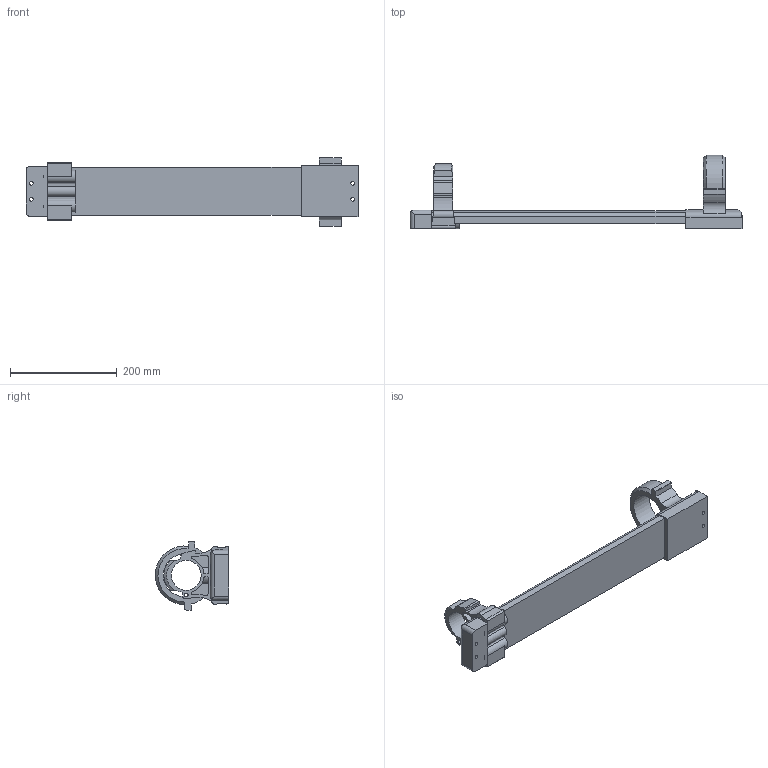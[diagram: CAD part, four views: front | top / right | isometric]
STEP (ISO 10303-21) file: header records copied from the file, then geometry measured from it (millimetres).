
FILE_DESCRIPTION( ( 'STEP AP214' ), '1' );
FILE_NAME( 'e:/temp/worker_13/temp/exporttempdir_5092_263_HvqPd/format_0/ROBOWAY.stp', '2021-05-03T13:33:24', ( 'License CC BY-ND 4.0' ), ( 'CADENAS' ), ' ', 'PARTsolutions', ' ' );
FILE_SCHEMA( ( 'AUTOMOTIVE_DESIGN { 1 0 10303 214 1 1 1 1 }' ) );
Length unit declared in the file: millimetre
Products named in the file (5): 144209375 RW-36 400L; _RWM-36; _RWR-36; _ST-RAIL 36-400; _RWF-36
Assembly tree (4 placements, depth 2):
  144209375 RW-36 400L
    _RWM-36
    _RWR-36
    _ST-RAIL 36-400
    _RWF-36
Bounding box: 622 x 137.49 x 129.11 mm (x, y, z)
Volume: 1773923.2 mm3; surface area: 248927 mm2
Topology: 4 solids, 4 shells, 193 faces, 548 edges, 365 vertices
Faces by surface type: plane 96, cylinder 93, cone 4
Full cylindrical faces by diameter (mm): 7 x5, 11 x4, 13 x1, 19 x2, 24 x1, 56 x1, 80 x1
Entity records: 8295 total; most frequent: CARTESIAN_POINT 1542, DIRECTION 1095, ORIENTED_EDGE 1054, EDGE_CURVE 527, AXIS2_PLACEMENT_3D 395, VERTEX_POINT 360, LINE 305, VECTOR 305
